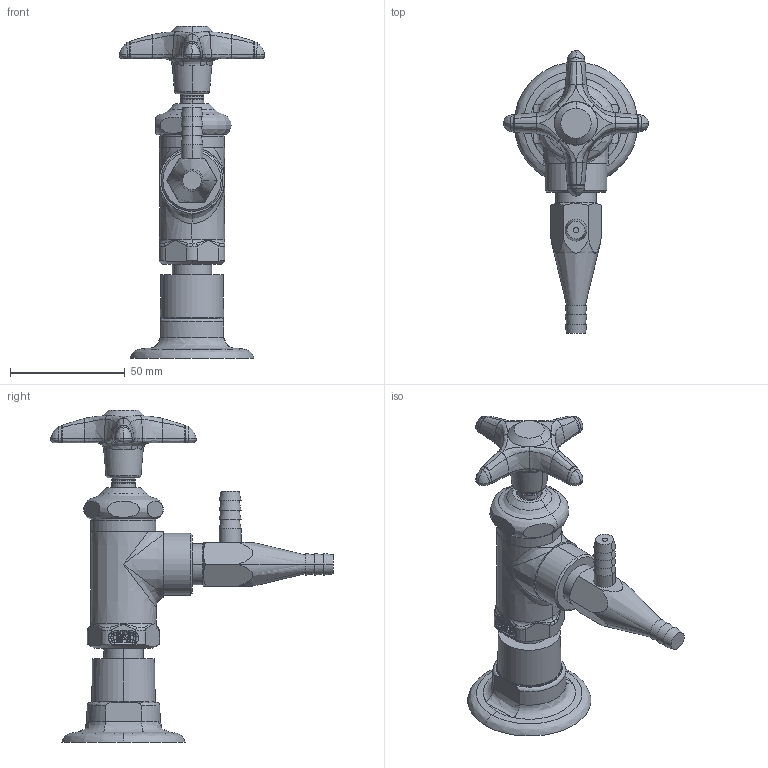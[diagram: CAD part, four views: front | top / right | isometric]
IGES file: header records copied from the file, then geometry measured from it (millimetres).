
Start section:  PTC IGES file: LWV2-C34-50.igs
Global section: file name: LWV2-C34-50.igs; native system: Creo Parametric by PTC Inc.; preprocessor: 2014500; author: usch_engrender; organization: Unknown; date: 20151117.120449; units: inch
Bounding box: 63.42 x 123.15 x 144.7 mm (x, y, z)
Volume: 112106.9 mm3; surface area: 28359.6 mm2
Topology: 1 solids, 5 shells, 508 faces, 1170 edges, 696 vertices
Faces by surface type: bspline 282, revolution 226
